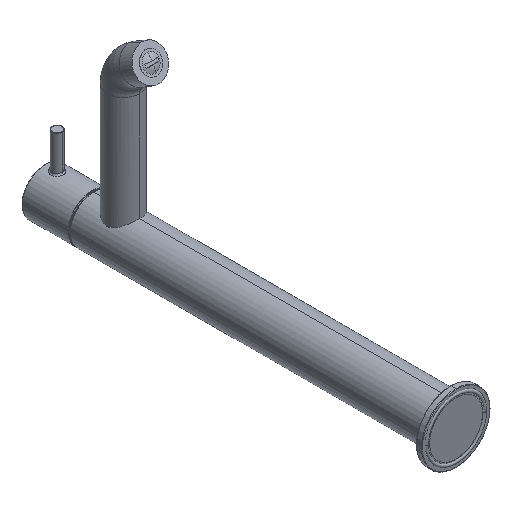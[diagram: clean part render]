
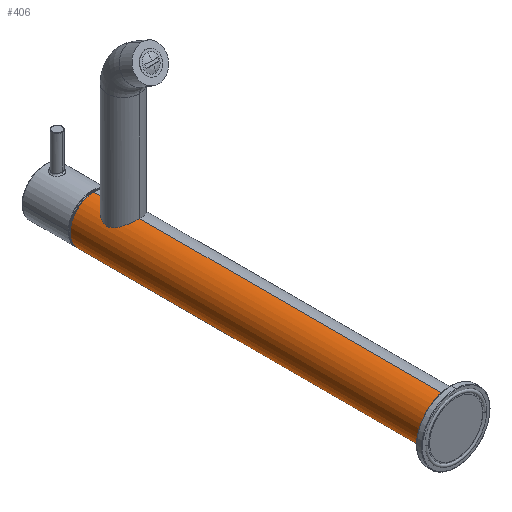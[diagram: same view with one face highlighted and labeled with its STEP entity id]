
A CAD part, isometric view. The second image highlights one B-rep face of the part: STEP entity #406.
In plain terms, the highlighted cylindrical face has radius 16.5 mm (diameter 33 mm), a partial arc.
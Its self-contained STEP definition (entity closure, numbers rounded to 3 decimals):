
#287=CARTESIAN_POINT('',(0.,236.,16.5));
#288=CARTESIAN_POINT('',(-0.471,236.,16.5));
#289=CARTESIAN_POINT('',(-1.394,235.895,16.461));
#290=CARTESIAN_POINT('',(-2.781,235.383,16.282));
#291=CARTESIAN_POINT('',(-3.962,234.581,16.03));
#292=CARTESIAN_POINT('',(-4.924,233.522,15.756));
#293=CARTESIAN_POINT('',(-5.589,232.323,15.528));
#294=CARTESIAN_POINT('',(-5.977,230.964,15.38));
#295=CARTESIAN_POINT('',(-6.042,229.551,15.354));
#296=CARTESIAN_POINT('',(-5.746,228.066,15.47));
#297=CARTESIAN_POINT('',(-5.093,226.71,15.702));
#298=CARTESIAN_POINT('',(-4.102,225.534,15.996));
#299=CARTESIAN_POINT('',(-2.875,224.661,16.267));
#300=CARTESIAN_POINT('',(-1.45,224.115,16.458));
#301=CARTESIAN_POINT('',(-0.49,224.,16.5));
#302=CARTESIAN_POINT('',(0.,224.,16.5));
#304=CARTESIAN_POINT('',(0.,2.,0.));
#305=DIRECTION('',(0.,-1.,0.));
#306=DIRECTION('',(0.,0.,1.));
#307=AXIS2_PLACEMENT_3D('',#304,#305,#306);
#309=CARTESIAN_POINT('',(0.,250.8,0.));
#310=DIRECTION('',(0.,-1.,0.));
#311=DIRECTION('',(0.,0.,1.));
#312=AXIS2_PLACEMENT_3D('',#309,#310,#311);
#331=DIRECTION('',(0.,1.,0.));
#332=VECTOR('',#331,14.8);
#333=CARTESIAN_POINT('',(0.,236.,16.5));
#334=LINE('',#333,#332);
#340=DIRECTION('',(0.,1.,0.));
#341=VECTOR('',#340,248.8);
#342=CARTESIAN_POINT('',(0.,2.,-16.5));
#343=LINE('',#342,#341);
#349=DIRECTION('',(0.,1.,0.));
#350=VECTOR('',#349,222.);
#351=CARTESIAN_POINT('',(0.,2.,16.5));
#352=LINE('',#351,#350);
#373=CARTESIAN_POINT('',(0.,2.,-16.5));
#374=CARTESIAN_POINT('',(0.,2.,16.5));
#375=VERTEX_POINT('',#373);
#376=VERTEX_POINT('',#374);
#377=CARTESIAN_POINT('',(0.,250.8,-16.5));
#378=CARTESIAN_POINT('',(0.,250.8,16.5));
#379=VERTEX_POINT('',#377);
#380=VERTEX_POINT('',#378);
#385=VERTEX_POINT('',#302);
#386=VERTEX_POINT('',#287);
#387=CARTESIAN_POINT('',(0.,-10.5,0.));
#388=DIRECTION('',(0.,1.,0.));
#389=DIRECTION('',(0.,0.,-1.));
#390=AXIS2_PLACEMENT_3D('',#387,#388,#389);
#391=CYLINDRICAL_SURFACE('',#390,16.5);
#393=ORIENTED_EDGE('',*,*,#392,.T.);
#395=ORIENTED_EDGE('',*,*,#394,.F.);
#397=ORIENTED_EDGE('',*,*,#396,.T.);
#399=ORIENTED_EDGE('',*,*,#398,.T.);
#401=ORIENTED_EDGE('',*,*,#400,.F.);
#403=ORIENTED_EDGE('',*,*,#402,.F.);
#404=EDGE_LOOP('',(#393,#395,#397,#399,#401,#403));
#405=FACE_OUTER_BOUND('',#404,.F.);
#406=ADVANCED_FACE('',(#405),#391,.T.);
#303=B_SPLINE_CURVE_WITH_KNOTS('',3,(#287,#288,#289,#290,#291,#292,#293,#294,
#295,#296,#297,#298,#299,#300,#301,#302),.UNSPECIFIED.,.F.,.F.,(4,1,1,1,1,1,1,1,
1,1,1,1,1,4),(0.,0.077,0.154,0.231,
0.308,0.385,0.462,0.538,
0.615,0.692,0.769,0.846,
0.923,1.),.UNSPECIFIED.);
#308=CIRCLE('',#307,16.5);
#313=CIRCLE('',#312,16.5);
#392=EDGE_CURVE('',#386,#385,#303,.T.);
#394=EDGE_CURVE('',#376,#385,#352,.T.);
#396=EDGE_CURVE('',#376,#375,#308,.T.);
#398=EDGE_CURVE('',#375,#379,#343,.T.);
#400=EDGE_CURVE('',#380,#379,#313,.T.);
#402=EDGE_CURVE('',#386,#380,#334,.T.);
